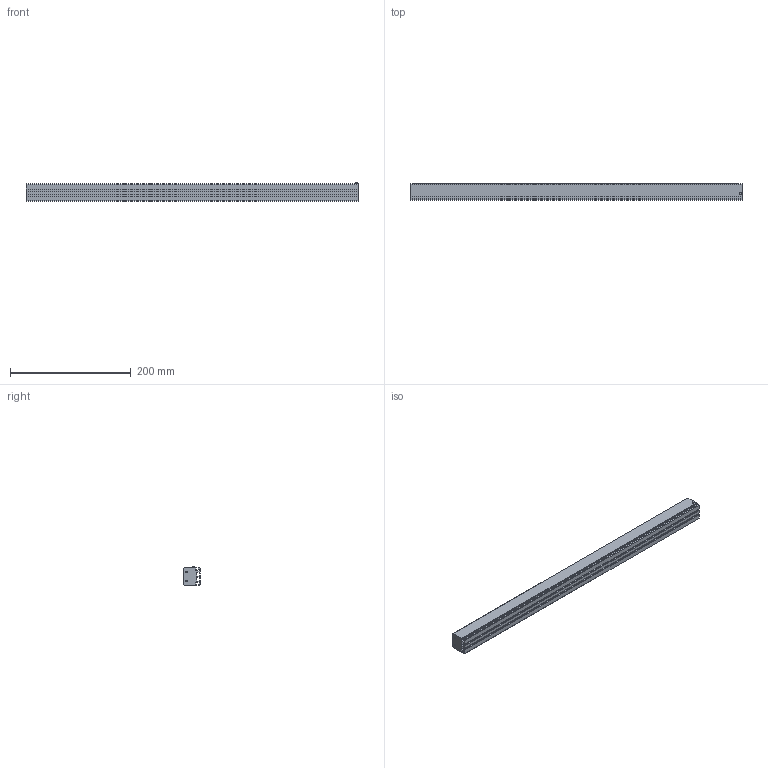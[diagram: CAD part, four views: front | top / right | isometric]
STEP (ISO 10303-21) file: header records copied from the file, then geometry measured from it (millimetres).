
FILE_DESCRIPTION (( 'STEP AP203' ), '1' );
FILE_NAME ('LRD-B4-550.STEP', '2022-08-22T06:57:40', ( 'TNT' ), ( '' ), 'SwSTEP 2.0', 'SolidWorks 2018', '' );
FILE_SCHEMA (( 'CONFIG_CONTROL_DESIGN' ));
Length unit declared in the file: millimetre
Products named in the file (1): LRD-B4-550
Bounding box: 550 x 27.7 x 30.6 mm (x, y, z)
Volume: 360359 mm3; surface area: 100233.7 mm2
Topology: 1 solids, 1 shells, 66 faces, 178 edges, 112 vertices
Faces by surface type: plane 48, cylinder 10, cone 8
Entity records: 2059 total; most frequent: CARTESIAN_POINT 349, ORIENTED_EDGE 340, DIRECTION 324, EDGE_CURVE 170, VECTOR 150, LINE 150, VERTEX_POINT 112, AXIS2_PLACEMENT_3D 87
